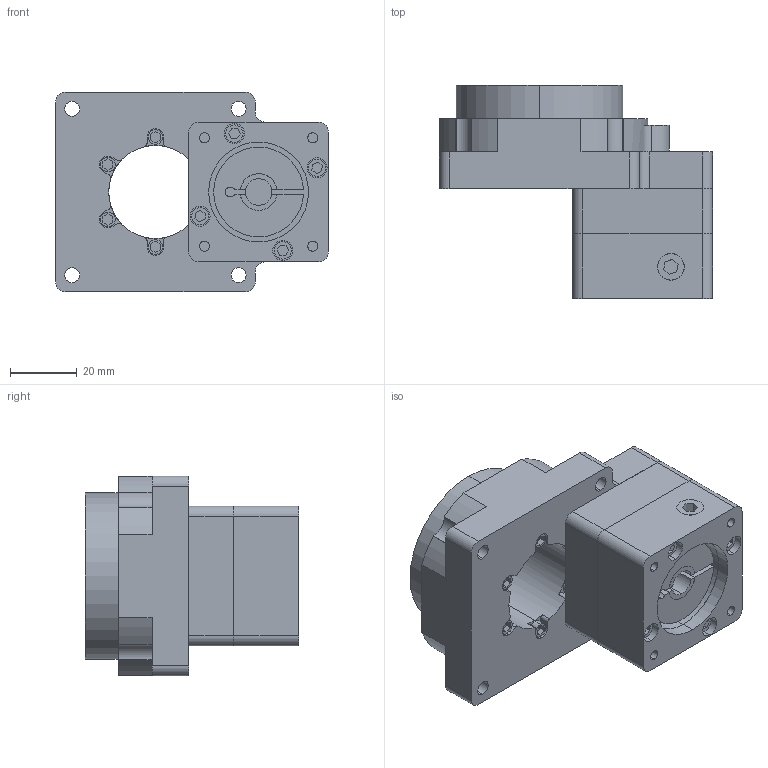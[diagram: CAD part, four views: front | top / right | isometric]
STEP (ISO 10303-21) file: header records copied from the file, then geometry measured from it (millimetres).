
FILE_DESCRIPTION (( 'STEP AP214' ), '1' );
FILE_NAME ('TS60-10K-100W-M3.STEP', '2020-05-12T10:06:47', ( '' ), ( '' ), 'SwSTEP 2.0', 'SolidWorks 2020', '' );
FILE_SCHEMA (( 'AUTOMOTIVE_DESIGN' ));
Length unit declared in the file: millimetre
Products named in the file (1): TS60-10K-100W-M3
Bounding box: 82 x 64 x 60 mm (x, y, z)
Volume: 128656.6 mm3; surface area: 37222.2 mm2
Topology: 3 solids, 9 shells, 370 faces, 903 edges, 592 vertices
Faces by surface type: plane 181, cylinder 177, cone 12
Entity records: 11044 total; most frequent: DIRECTION 2001, CARTESIAN_POINT 1939, ORIENTED_EDGE 1782, EDGE_CURVE 891, AXIS2_PLACEMENT_3D 743, VERTEX_POINT 592, VECTOR 515, LINE 515
